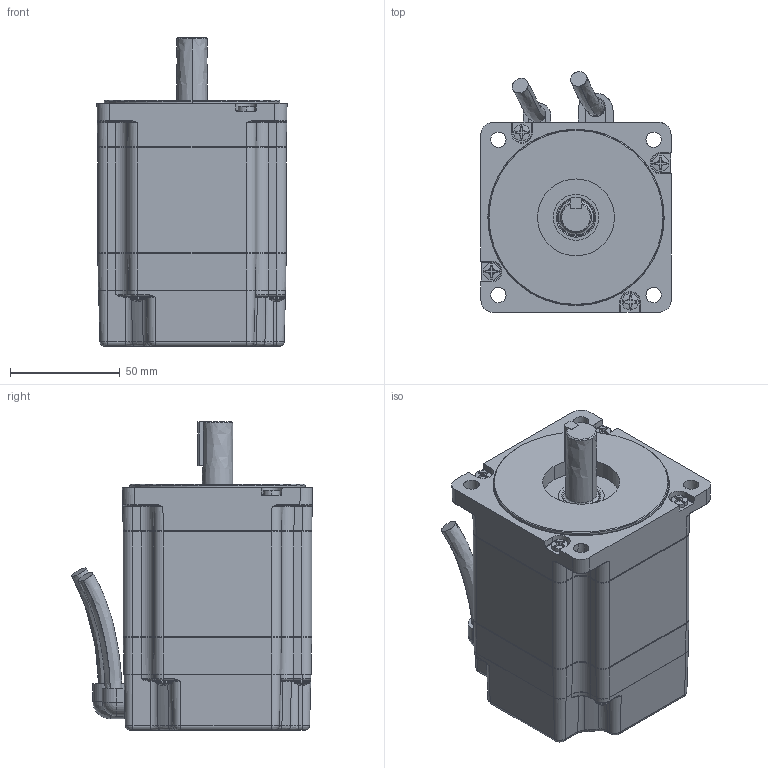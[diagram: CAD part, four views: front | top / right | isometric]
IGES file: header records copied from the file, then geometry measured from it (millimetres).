
Start section:  PTC IGES file: vlm31a.igs
Global section: file name: vlm31a.igs; native system: Pro/ENGINEER by Parametric Technology Corporation; preprocessor: 2006510; author: Ray.Dobbins; organization: Unknown; date: 20110726.095158; units: inch
Bounding box: 86.56 x 109.74 x 140.45 mm (x, y, z)
Surface area: 181523.4 mm2 (no closed solid volume)
Topology: 0 solids, 0 shells, 2235 faces, 12071 edges, 12061 vertices
Faces by surface type: revolution 1334, bspline 901
